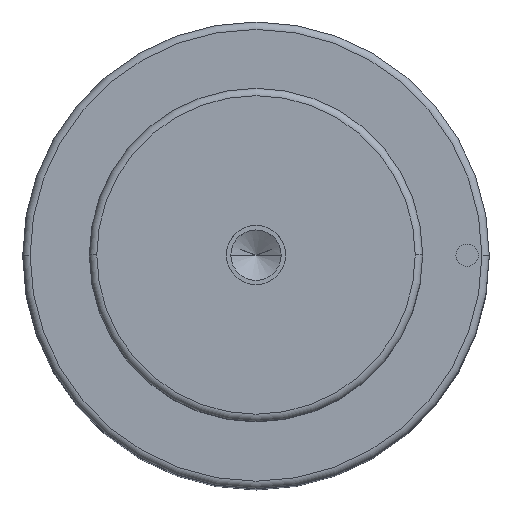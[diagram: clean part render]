
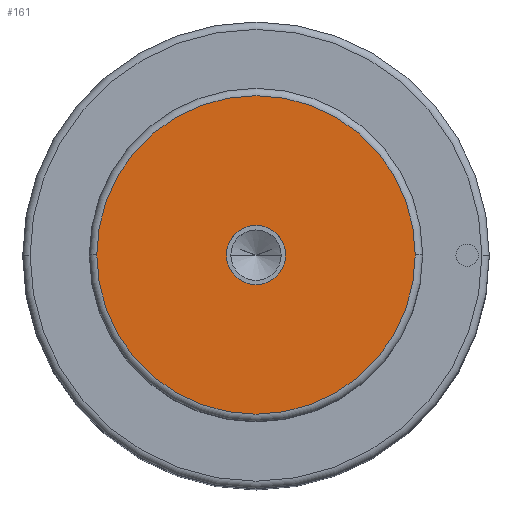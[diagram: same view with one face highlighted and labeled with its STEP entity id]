
A CAD part, top view. The second image highlights one B-rep face of the part: STEP entity #161.
In plain terms, the highlighted planar face has unit normal (0, 0, 1).
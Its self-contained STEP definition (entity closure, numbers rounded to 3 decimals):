
#104=PLANE('',#823);
#113=FACE_BOUND('',#265,.T.);
#114=FACE_BOUND('',#266,.T.);
#161=ADVANCED_FACE('',(#113,#114),#104,.T.);
#265=EDGE_LOOP('',(#405,#406));
#266=EDGE_LOOP('',(#407,#408));
#323=CIRCLE('',#817,4.);
#324=CIRCLE('',#819,4.);
#325=CIRCLE('',#821,21.5);
#326=CIRCLE('',#822,21.5);
#405=ORIENTED_EDGE('',*,*,#649,.F.);
#406=ORIENTED_EDGE('',*,*,#650,.F.);
#407=ORIENTED_EDGE('',*,*,#648,.T.);
#408=ORIENTED_EDGE('',*,*,#646,.T.);
#582=VERTEX_POINT('',#1204);
#583=VERTEX_POINT('',#1206);
#584=VERTEX_POINT('',#1212);
#585=VERTEX_POINT('',#1213);
#646=EDGE_CURVE('',#583,#582,#323,.T.);
#648=EDGE_CURVE('',#582,#583,#324,.T.);
#649=EDGE_CURVE('',#584,#585,#325,.T.);
#650=EDGE_CURVE('',#585,#584,#326,.T.);
#817=AXIS2_PLACEMENT_3D('',#1205,#947,#948);
#819=AXIS2_PLACEMENT_3D('',#1209,#952,#953);
#821=AXIS2_PLACEMENT_3D('',#1211,#956,#957);
#822=AXIS2_PLACEMENT_3D('',#1214,#958,#959);
#823=AXIS2_PLACEMENT_3D('',#1215,#960,#961);
#947=DIRECTION('',(0.,0.,-1.));
#948=DIRECTION('',(0.,1.,0.));
#952=DIRECTION('',(0.,0.,-1.));
#953=DIRECTION('',(0.,-1.,0.));
#956=DIRECTION('',(0.,0.,-1.));
#957=DIRECTION('',(0.,1.,0.));
#958=DIRECTION('',(0.,0.,-1.));
#959=DIRECTION('',(0.,-1.,0.));
#960=DIRECTION('',(0.,0.,1.));
#961=DIRECTION('',(0.,-1.,0.));
#1204=CARTESIAN_POINT('',(-4.,0.,135.));
#1205=CARTESIAN_POINT('',(0.,0.,135.));
#1206=CARTESIAN_POINT('',(4.,0.,135.));
#1209=CARTESIAN_POINT('',(0.,0.,135.));
#1211=CARTESIAN_POINT('',(0.,0.,135.));
#1212=CARTESIAN_POINT('',(21.5,0.,135.));
#1213=CARTESIAN_POINT('',(-21.5,0.,135.));
#1214=CARTESIAN_POINT('',(0.,0.,135.));
#1215=CARTESIAN_POINT('',(0.,0.,135.));
